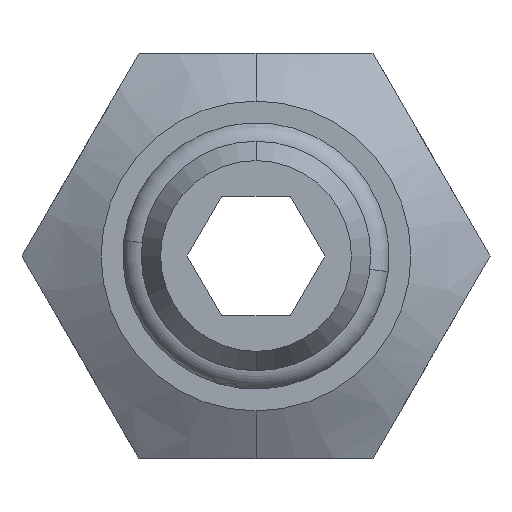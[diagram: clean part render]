
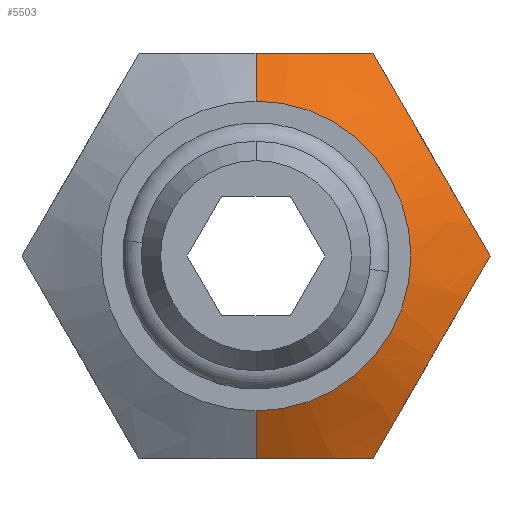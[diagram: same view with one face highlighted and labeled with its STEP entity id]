
A CAD part, front view. The second image highlights one B-rep face of the part: STEP entity #5503.
In plain terms, the highlighted conical face has half-angle 60 degrees and reference radius 6.5 mm.
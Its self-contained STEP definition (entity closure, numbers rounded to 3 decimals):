
#22 = CARTESIAN_POINT ( 'NONE',  ( 0., 9.055, 8.5 ) ) ;
#109 = EDGE_CURVE ( 'Defeature completata1_64+Defeature completata1_75+Defeature completata1_73+Defeature completata1_65', #1663, #566, #4324, .T. ) ;
#203 = AXIS2_PLACEMENT_3D ( 'NONE', #6744, #4549, #2965 ) ;
#224 = CARTESIAN_POINT ( 'NONE',  ( 0., 7.9, 6.5 ) ) ;
#242 = CARTESIAN_POINT ( 'NONE',  ( 4.907, 9.814, 8.5 ) ) ;
#243 = CARTESIAN_POINT ( 'NONE',  ( 0., 7.9, 6.5 ) ) ;
#274 = DIRECTION ( 'NONE',  ( 0., 0.5, 0.866 ) ) ;
#346 = CARTESIAN_POINT ( 'NONE',  ( 5.713, 9.391, 7.105 ) ) ;
#363 = CARTESIAN_POINT ( 'NONE',  ( 9.009, 9.391, -1.395 ) ) ;
#399 = CARTESIAN_POINT ( 'NONE',  ( 7.565, 9.054, -3.897 ) ) ;
#440 = CIRCLE ( 'NONE', #203, 6.5 ) ;
#528 = EDGE_CURVE ( 'Defeature completata1_64+Defeature completata1_65+Defeature completata1_75+Defeature completata1_67', #566, #6439, #5049, .T. ) ;
#566 = VERTEX_POINT ( 'NONE', #2459 ) ;
#897 = CARTESIAN_POINT ( 'NONE',  ( 4.907, 9.814, 8.5 ) ) ;
#920 = ORIENTED_EDGE ( 'NONE', *, *, #3689, .F. ) ;
#932 = CARTESIAN_POINT ( 'NONE',  ( 9.011, 9.392, 1.393 ) ) ;
#939 = EDGE_CURVE ( 'NONE', #5888, #6588, #2509, .T. ) ;
#1086 = VECTOR ( 'NONE', #274, 1000. ) ;
#1194 = DIRECTION ( 'NONE',  ( 0., 0., 1. ) ) ;
#1229 = DIRECTION ( 'NONE',  ( 0., 1., 0. ) ) ;
#1308 = CARTESIAN_POINT ( 'NONE',  ( 3.31, 9.394, 8.5 ) ) ;
#1381 = CONICAL_SURFACE ( 'NONE', #3481, 6.5, 1.047 ) ;
#1436 = CARTESIAN_POINT ( 'NONE',  ( 6.527, 9.128, -5.694 ) ) ;
#1663 = VERTEX_POINT ( 'NONE', #6238 ) ;
#1811 = VECTOR ( 'NONE', #3582, 1000. ) ;
#1864 = CARTESIAN_POINT ( 'NONE',  ( 0., 9.055, 8.5 ) ) ;
#1992 = CARTESIAN_POINT ( 'NONE',  ( 0., 7.9, -6.5 ) ) ;
#2049 = CARTESIAN_POINT ( 'NONE',  ( 7.783, 9.055, 3.519 ) ) ;
#2190 = ORIENTED_EDGE ( 'NONE', *, *, #4329, .T. ) ;
#2213 = CARTESIAN_POINT ( 'NONE',  ( 1.671, 9.128, -8.5 ) ) ;
#2244 = CARTESIAN_POINT ( 'NONE',  ( 4.114, 9.585, -8.5 ) ) ;
#2300 = EDGE_CURVE ( 'Defeature completata1_64+Defeature completata1_67+Defeature completata1_65+Defeature completata1_69', #6439, #4722, #3601, .T. ) ;
#2459 = CARTESIAN_POINT ( 'NONE',  ( 9.815, 9.814, 0. ) ) ;
#2478 = CARTESIAN_POINT ( 'NONE',  ( 9.414, 9.582, -0.695 ) ) ;
#2509 = LINE ( 'NONE', #1992, #1811 ) ;
#2705 = VERTEX_POINT ( 'NONE', #224 ) ;
#2899 = ORIENTED_EDGE ( 'NONE', *, *, #3470, .F. ) ;
#2965 = DIRECTION ( 'NONE',  ( 0., 0., -1. ) ) ;
#2992 = CARTESIAN_POINT ( 'NONE',  ( 8.189, 9.141, -2.816 ) ) ;
#3043 = CARTESIAN_POINT ( 'NONE',  ( 6.948, 9.072, 4.966 ) ) ;
#3407 = CARTESIAN_POINT ( 'NONE',  ( 4.907, 9.814, -8.5 ) ) ;
#3470 = EDGE_CURVE ( 'NONE', #2705, #4722, #5548, .T. ) ;
#3481 = AXIS2_PLACEMENT_3D ( 'NONE', #5979, #1229, #1194 ) ;
#3582 = DIRECTION ( 'NONE',  ( 0., 0.5, -0.866 ) ) ;
#3594 = ORIENTED_EDGE ( 'NONE', *, *, #528, .T. ) ;
#3601 = B_SPLINE_CURVE_WITH_KNOTS ( 'NONE', 3,
 ( #242, #3937, #1308, #4994, #6571, #1864 ),
 .UNSPECIFIED., .F., .F.,
 ( 4, 2, 4 ),
 ( 0.023, 0.026, 0.028 ),
 .UNSPECIFIED. ) ;
#3689 = EDGE_CURVE ( 'Defeature completata1_63+Defeature completata1_64+Defeature completata1_64+Defeature completata1_64', #5888, #2705, #440, .T. ) ;
#3705 = CARTESIAN_POINT ( 'NONE',  ( 0., 9.055, -8.5 ) ) ;
#3874 = ORIENTED_EDGE ( 'NONE', *, *, #109, .T. ) ;
#3937 = CARTESIAN_POINT ( 'NONE',  ( 4.114, 9.585, 8.5 ) ) ;
#4031 = CARTESIAN_POINT ( 'NONE',  ( 7.775, 9.072, -3.534 ) ) ;
#4316 = CARTESIAN_POINT ( 'NONE',  ( 3.31, 9.394, -8.5 ) ) ;
#4324 = B_SPLINE_CURVE_WITH_KNOTS ( 'NONE', 3,
 ( #3407, #6669, #4477, #1436, #5507, #399, #4031, #2992, #5088, #363, #2478, #4575 ),
 .UNSPECIFIED., .F., .F.,
 ( 4, 2, 2, 2, 2, 4 ),
 ( 0., 0.002, 0.005, 0.006, 0.007, 0.01 ),
 .UNSPECIFIED. ) ;
#4329 = EDGE_CURVE ( 'Defeature completata1_64+Defeature completata1_73+Defeature completata1_71+Defeature completata1_75', #6588, #1663, #4416, .T. ) ;
#4416 = B_SPLINE_CURVE_WITH_KNOTS ( 'NONE', 3,
 ( #3705, #5889, #2213, #4316, #2244, #5826 ),
 .UNSPECIFIED., .F., .F.,
 ( 4, 2, 4 ),
 ( 0.014, 0.016, 0.019 ),
 .UNSPECIFIED. ) ;
#4477 = CARTESIAN_POINT ( 'NONE',  ( 5.712, 9.392, -7.107 ) ) ;
#4524 = CARTESIAN_POINT ( 'NONE',  ( 4.907, 9.814, 8.5 ) ) ;
#4549 = DIRECTION ( 'NONE',  ( 0., -1., 0. ) ) ;
#4575 = CARTESIAN_POINT ( 'NONE',  ( 9.815, 9.814, 0. ) ) ;
#4657 = CARTESIAN_POINT ( 'NONE',  ( 9.414, 9.583, 0.694 ) ) ;
#4722 = VERTEX_POINT ( 'NONE', #22 ) ;
#4912 = CARTESIAN_POINT ( 'NONE',  ( 0., 7.9, -6.5 ) ) ;
#4918 = FACE_OUTER_BOUND ( 'NONE', #6061, .T. ) ;
#4994 = CARTESIAN_POINT ( 'NONE',  ( 1.671, 9.128, 8.5 ) ) ;
#5049 = B_SPLINE_CURVE_WITH_KNOTS ( 'NONE', 3,
 ( #6137, #4657, #932, #6101, #2049, #5729, #3043, #5143, #6211, #346, #5697, #4524 ),
 .UNSPECIFIED., .F., .F.,
 ( 4, 2, 2, 2, 2, 4 ),
 ( 0., 0.002, 0.005, 0.006, 0.007, 0.01 ),
 .UNSPECIFIED. ) ;
#5088 = CARTESIAN_POINT ( 'NONE',  ( 8.395, 9.193, -2.459 ) ) ;
#5143 = CARTESIAN_POINT ( 'NONE',  ( 6.533, 9.141, 5.684 ) ) ;
#5245 = ORIENTED_EDGE ( 'NONE', *, *, #939, .T. ) ;
#5503 = ADVANCED_FACE ( 'Defeature completata1_64', ( #4918 ), #1381, .T. ) ;
#5507 = CARTESIAN_POINT ( 'NONE',  ( 6.939, 9.055, -4.981 ) ) ;
#5548 = LINE ( 'NONE', #243, #1086 ) ;
#5697 = CARTESIAN_POINT ( 'NONE',  ( 5.309, 9.582, 7.805 ) ) ;
#5727 = ORIENTED_EDGE ( 'NONE', *, *, #2300, .T. ) ;
#5729 = CARTESIAN_POINT ( 'NONE',  ( 7.157, 9.054, 4.603 ) ) ;
#5826 = CARTESIAN_POINT ( 'NONE',  ( 4.907, 9.814, -8.5 ) ) ;
#5888 = VERTEX_POINT ( 'NONE', #4912 ) ;
#5889 = CARTESIAN_POINT ( 'NONE',  ( 0.83, 9.055, -8.5 ) ) ;
#5979 = CARTESIAN_POINT ( 'NONE',  ( 0., 7.9, 0. ) ) ;
#6061 = EDGE_LOOP ( 'NONE', ( #920, #5245, #2190, #3874, #3594, #5727, #2899 ) ) ;
#6101 = CARTESIAN_POINT ( 'NONE',  ( 8.195, 9.128, 2.806 ) ) ;
#6137 = CARTESIAN_POINT ( 'NONE',  ( 9.815, 9.814, 0. ) ) ;
#6211 = CARTESIAN_POINT ( 'NONE',  ( 6.327, 9.193, 6.041 ) ) ;
#6238 = CARTESIAN_POINT ( 'NONE',  ( 4.907, 9.814, -8.5 ) ) ;
#6327 = CARTESIAN_POINT ( 'NONE',  ( 0., 9.055, -8.5 ) ) ;
#6439 = VERTEX_POINT ( 'NONE', #897 ) ;
#6571 = CARTESIAN_POINT ( 'NONE',  ( 0.83, 9.055, 8.5 ) ) ;
#6588 = VERTEX_POINT ( 'NONE', #6327 ) ;
#6669 = CARTESIAN_POINT ( 'NONE',  ( 5.308, 9.583, -7.806 ) ) ;
#6744 = CARTESIAN_POINT ( 'NONE',  ( 0., 7.9, 0. ) ) ;
